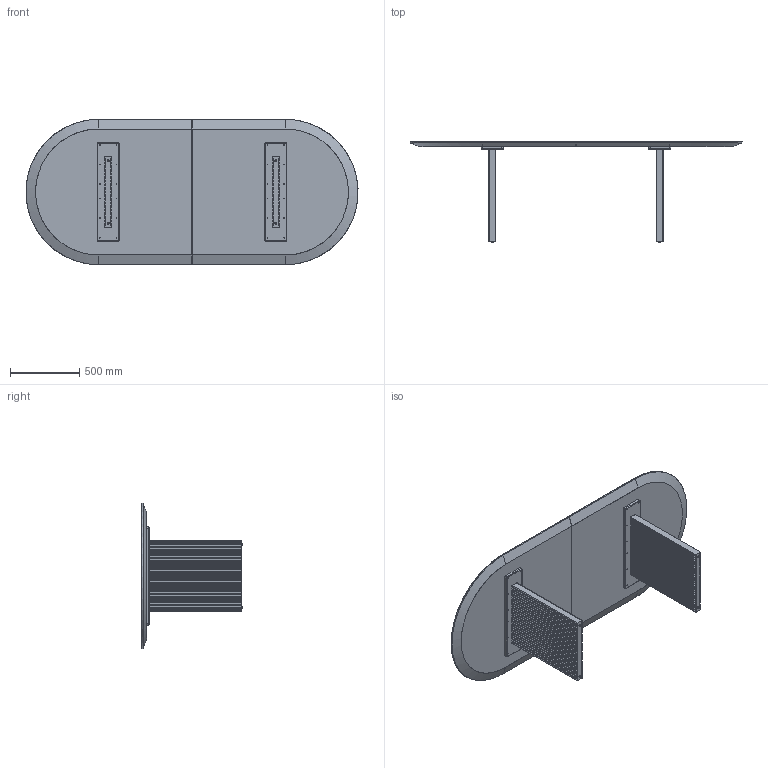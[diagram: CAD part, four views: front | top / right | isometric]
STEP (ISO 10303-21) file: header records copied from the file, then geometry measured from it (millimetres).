
FILE_DESCRIPTION(/* description */ (''),/* implementation_level */ '2;1');
FILE_NAME(/* name */ 'TENTAB~1',/* time_stamp */ '2021-07-27T20:39:35+02:00',/* author */ (''),/* organization */ (''),/* preprocessor_version */ 'ST-DEVELOPER v16.5',/* originating_system */ '',/* authorisation */ '');
FILE_SCHEMA (('AUTOMOTIVE_DESIGN'));
Products named in the file (1): Document
Bounding box: 2398.75 x 725 x 1050 mm (x, y, z)
Surface area: 7346055 mm2 (no closed solid volume)
Topology: 0 solids, 628 shells, 628 faces, 2518 edges, 2518 vertices
Faces by surface type: plane 336, bspline 292
Entity records: 39675 total; most frequent: CARTESIAN_POINT 20298, ORIENTED_EDGE 2518, EDGE_CURVE 2518, VERTEX_POINT 2518, B_SPLINE_CURVE_WITH_KNOTS 1882, EDGE_LOOP 682, COLOUR_RGB 628, FILL_AREA_STYLE_COLOUR 628
